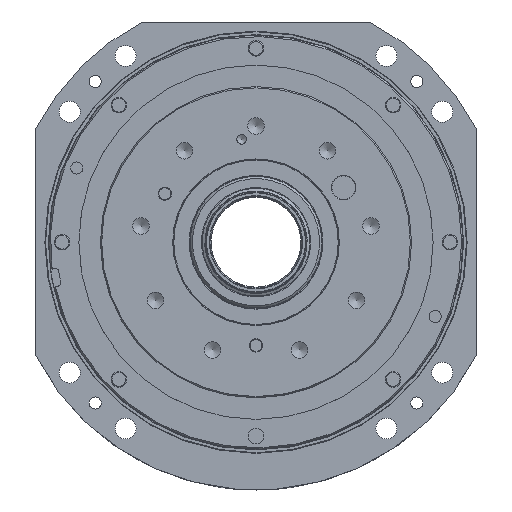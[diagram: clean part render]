
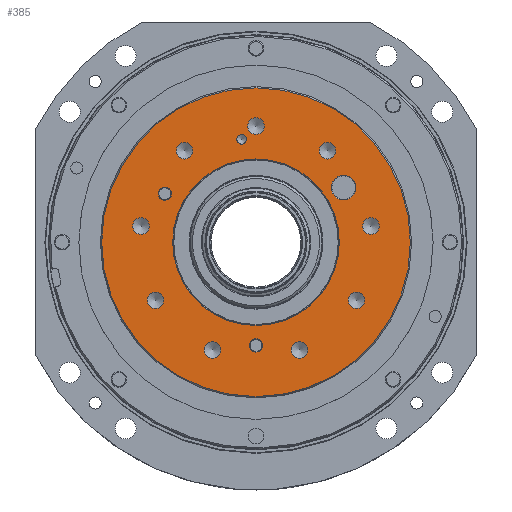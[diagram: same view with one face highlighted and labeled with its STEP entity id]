
A CAD part, left-side view. The second image highlights one B-rep face of the part: STEP entity #385.
In plain terms, the highlighted planar face has unit normal (-1, 0, 0).
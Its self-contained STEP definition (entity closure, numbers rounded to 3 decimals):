
#147=CARTESIAN_POINT('',(0.0,11.999,90.));
#148=VERTEX_POINT('',#147);
#149=CARTESIAN_POINT('',(0.0,11.999,86.));
#150=DIRECTION('',(1.0,0.0,0.0));
#151=DIRECTION('',(0.0,0.0,1.0));
#152=AXIS2_PLACEMENT_3D('',#149,#150,#151);
#153=CIRCLE('',#152,4.0);
#154=EDGE_CURVE('',#148,#148,#153,.T.);
#178=CARTESIAN_POINT('',(0.0,-73.144,55.956));
#179=VERTEX_POINT('',#178);
#180=CARTESIAN_POINT('',(0.0,-73.144,45.706));
#181=DIRECTION('',(-1.0,0.0,0.0));
#182=DIRECTION('',(0.0,0.0,-1.0));
#183=AXIS2_PLACEMENT_3D('',#180,#181,#182);
#184=CIRCLE('',#183,10.25);
#185=EDGE_CURVE('',#179,#179,#184,.T.);
#231=CARTESIAN_POINT('',(0.0,99.269,0.0));
#232=DIRECTION('',(-1.0,0.0,0.0));
#233=DIRECTION('',(0.0,0.0,1.0));
#234=AXIS2_PLACEMENT_3D('',#231,#232,#233);
#235=PLANE('',#234);
#236=CARTESIAN_POINT('',(0.0,128.961,0.0));
#237=VERTEX_POINT('',#236);
#238=CARTESIAN_POINT('',(0.0,0.0,0.0));
#239=DIRECTION('',(1.0,0.0,0.0));
#240=DIRECTION('',(0.0,1.0,0.0));
#241=AXIS2_PLACEMENT_3D('',#238,#239,#240);
#242=CIRCLE('',#241,128.961);
#243=EDGE_CURVE('',#237,#237,#242,.T.);
#244=ORIENTED_EDGE('',*,*,#243,.F.);
#245=EDGE_LOOP('',(#244));
#246=FACE_OUTER_BOUND('',#245,.T.);
#247=ORIENTED_EDGE('',*,*,#154,.T.);
#248=EDGE_LOOP('',(#247));
#249=FACE_BOUND('',#248,.T.);
#250=CARTESIAN_POINT('',(0.0,0.,-80.75));
#251=VERTEX_POINT('',#250);
#252=CARTESIAN_POINT('',(0.0,0.0,-86.25));
#253=DIRECTION('',(-1.0,0.0,0.0));
#254=DIRECTION('',(0.0,0.0,-1.0));
#255=AXIS2_PLACEMENT_3D('',#252,#253,#254);
#256=CIRCLE('',#255,5.5);
#257=EDGE_CURVE('',#251,#251,#256,.T.);
#258=ORIENTED_EDGE('',*,*,#257,.F.);
#259=EDGE_LOOP('',(#258));
#260=FACE_BOUND('',#259,.T.);
#261=CARTESIAN_POINT('',(0.0,69.577,0.0));
#262=VERTEX_POINT('',#261);
#263=CARTESIAN_POINT('',(0.0,0.0,0.0));
#264=DIRECTION('',(1.0,0.0,0.0));
#265=DIRECTION('',(0.0,1.0,0.0));
#266=AXIS2_PLACEMENT_3D('',#263,#264,#265);
#267=CIRCLE('',#266,69.577);
#268=EDGE_CURVE('',#262,#262,#267,.T.);
#269=ORIENTED_EDGE('',*,*,#268,.T.);
#270=EDGE_LOOP('',(#269));
#271=FACE_BOUND('',#270,.T.);
#272=CARTESIAN_POINT('',(0.0,-59.719,83.355));
#273=VERTEX_POINT('',#272);
#274=CARTESIAN_POINT('',(0.0,-59.719,76.437));
#275=DIRECTION('',(1.0,0.0,0.0));
#276=DIRECTION('',(0.0,0.0,1.0));
#277=AXIS2_PLACEMENT_3D('',#274,#275,#276);
#278=CIRCLE('',#277,6.918);
#279=EDGE_CURVE('',#273,#273,#278,.T.);
#280=ORIENTED_EDGE('',*,*,#279,.T.);
#281=EDGE_LOOP('',(#280));
#282=FACE_BOUND('',#281,.T.);
#283=CARTESIAN_POINT('',(0.0,-84.004,-41.582));
#284=VERTEX_POINT('',#283);
#285=CARTESIAN_POINT('',(0.0,-84.004,-48.5));
#286=DIRECTION('',(1.0,0.0,0.0));
#287=DIRECTION('',(0.0,0.0,1.0));
#288=AXIS2_PLACEMENT_3D('',#285,#286,#287);
#289=CIRCLE('',#288,6.918);
#290=EDGE_CURVE('',#284,#284,#289,.T.);
#291=ORIENTED_EDGE('',*,*,#290,.T.);
#292=EDGE_LOOP('',(#291));
#293=FACE_BOUND('',#292,.T.);
#294=CARTESIAN_POINT('',(0.0,36.337,-83.019));
#295=VERTEX_POINT('',#294);
#296=CARTESIAN_POINT('',(0.0,36.337,-89.937));
#297=DIRECTION('',(1.0,0.0,0.0));
#298=DIRECTION('',(0.0,0.0,1.0));
#299=AXIS2_PLACEMENT_3D('',#296,#297,#298);
#300=CIRCLE('',#299,6.918);
#301=EDGE_CURVE('',#295,#295,#300,.T.);
#302=ORIENTED_EDGE('',*,*,#301,.T.);
#303=EDGE_LOOP('',(#302));
#304=FACE_BOUND('',#303,.T.);
#305=CARTESIAN_POINT('',(0.0,96.056,20.417));
#306=VERTEX_POINT('',#305);
#307=CARTESIAN_POINT('',(0.0,96.056,13.5));
#308=DIRECTION('',(1.0,0.0,0.0));
#309=DIRECTION('',(0.0,0.0,1.0));
#310=AXIS2_PLACEMENT_3D('',#307,#308,#309);
#311=CIRCLE('',#310,6.918);
#312=EDGE_CURVE('',#306,#306,#311,.T.);
#313=ORIENTED_EDGE('',*,*,#312,.T.);
#314=EDGE_LOOP('',(#313));
#315=FACE_BOUND('',#314,.T.);
#316=CARTESIAN_POINT('',(0.0,0.0,103.918));
#317=VERTEX_POINT('',#316);
#318=CARTESIAN_POINT('',(0.0,0.0,97.));
#319=DIRECTION('',(1.0,0.0,0.0));
#320=DIRECTION('',(0.0,0.0,1.0));
#321=AXIS2_PLACEMENT_3D('',#318,#319,#320);
#322=CIRCLE('',#321,6.918);
#323=EDGE_CURVE('',#317,#317,#322,.T.);
#324=ORIENTED_EDGE('',*,*,#323,.T.);
#325=EDGE_LOOP('',(#324));
#326=FACE_BOUND('',#325,.T.);
#327=CARTESIAN_POINT('',(0.0,59.719,83.355));
#328=VERTEX_POINT('',#327);
#329=CARTESIAN_POINT('',(0.0,59.719,76.437));
#330=DIRECTION('',(1.0,0.0,0.0));
#331=DIRECTION('',(0.0,0.0,1.0));
#332=AXIS2_PLACEMENT_3D('',#329,#330,#331);
#333=CIRCLE('',#332,6.918);
#334=EDGE_CURVE('',#328,#328,#333,.T.);
#335=ORIENTED_EDGE('',*,*,#334,.T.);
#336=EDGE_LOOP('',(#335));
#337=FACE_BOUND('',#336,.T.);
#338=CARTESIAN_POINT('',(0.0,84.004,-41.582));
#339=VERTEX_POINT('',#338);
#340=CARTESIAN_POINT('',(0.0,84.004,-48.5));
#341=DIRECTION('',(1.0,0.0,0.0));
#342=DIRECTION('',(0.0,0.0,1.0));
#343=AXIS2_PLACEMENT_3D('',#340,#341,#342);
#344=CIRCLE('',#343,6.918);
#345=EDGE_CURVE('',#339,#339,#344,.T.);
#346=ORIENTED_EDGE('',*,*,#345,.T.);
#347=EDGE_LOOP('',(#346));
#348=FACE_BOUND('',#347,.T.);
#349=CARTESIAN_POINT('',(0.0,-36.337,-83.019));
#350=VERTEX_POINT('',#349);
#351=CARTESIAN_POINT('',(0.0,-36.337,-89.937));
#352=DIRECTION('',(1.0,0.0,0.0));
#353=DIRECTION('',(0.0,0.0,1.0));
#354=AXIS2_PLACEMENT_3D('',#351,#352,#353);
#355=CIRCLE('',#354,6.918);
#356=EDGE_CURVE('',#350,#350,#355,.T.);
#357=ORIENTED_EDGE('',*,*,#356,.T.);
#358=EDGE_LOOP('',(#357));
#359=FACE_BOUND('',#358,.T.);
#360=CARTESIAN_POINT('',(0.0,-96.056,20.417));
#361=VERTEX_POINT('',#360);
#362=CARTESIAN_POINT('',(0.0,-96.056,13.5));
#363=DIRECTION('',(1.0,0.0,0.0));
#364=DIRECTION('',(0.0,0.0,1.0));
#365=AXIS2_PLACEMENT_3D('',#362,#363,#364);
#366=CIRCLE('',#365,6.918);
#367=EDGE_CURVE('',#361,#361,#366,.T.);
#368=ORIENTED_EDGE('',*,*,#367,.T.);
#369=EDGE_LOOP('',(#368));
#370=FACE_BOUND('',#369,.T.);
#371=CARTESIAN_POINT('',(0.0,76.154,45.992));
#372=VERTEX_POINT('',#371);
#373=CARTESIAN_POINT('',(0.0,76.154,40.492));
#374=DIRECTION('',(-1.0,0.0,0.0));
#375=DIRECTION('',(0.0,0.0,-1.0));
#376=AXIS2_PLACEMENT_3D('',#373,#374,#375);
#377=CIRCLE('',#376,5.5);
#378=EDGE_CURVE('',#372,#372,#377,.T.);
#379=ORIENTED_EDGE('',*,*,#378,.F.);
#380=EDGE_LOOP('',(#379));
#381=FACE_BOUND('',#380,.T.);
#382=ORIENTED_EDGE('',*,*,#185,.F.);
#383=EDGE_LOOP('',(#382));
#384=FACE_BOUND('',#383,.T.);
#385=ADVANCED_FACE('',(#246,#249,#260,#271,#282,#293,#304,#315,#326,#337,#348,#359,#370,#381,#384),#235,.T.);
